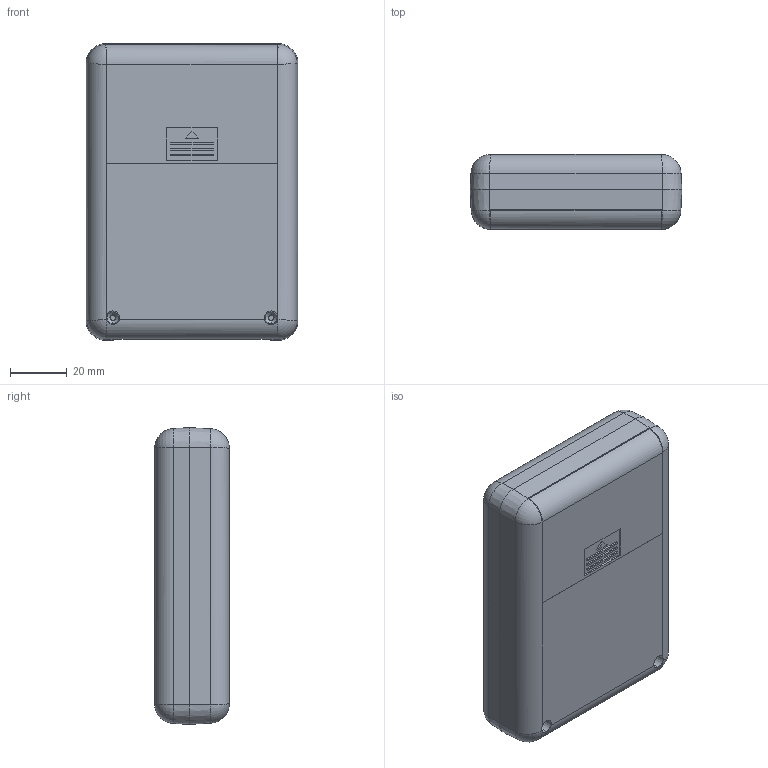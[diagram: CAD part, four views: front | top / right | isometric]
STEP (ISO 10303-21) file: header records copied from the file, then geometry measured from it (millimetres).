
FILE_DESCRIPTION (( 'STEP AP203' ), '1' );
FILE_NAME ('HH-052-0-0.STEP', '2022-05-30T11:48:08', ( '' ), ( '' ), 'SwSTEP 2.0', 'SolidWorks 2021', '' );
FILE_SCHEMA (( 'CONFIG_CONTROL_DESIGN' ));
Length unit declared in the file: millimetre
Products named in the file (4): panel; HH-052-0-0; covesr; bases
Assembly tree (3 placements, depth 2):
  HH-052-0-0
    bases
    covesr
    panel
Bounding box: 75 x 26.4 x 105 mm (x, y, z)
Volume: 57011.8 mm3; surface area: 61467.6 mm2
Topology: 4 solids, 4 shells, 452 faces, 1259 edges, 818 vertices
Faces by surface type: plane 297, cone 74, cylinder 67, bspline 14
Entity records: 20122 total; most frequent: CARTESIAN_POINT 8266, ORIENTED_EDGE 2506, DIRECTION 2217, EDGE_CURVE 1253, LINE 917, VECTOR 917, VERTEX_POINT 818, AXIS2_PLACEMENT_3D 650
